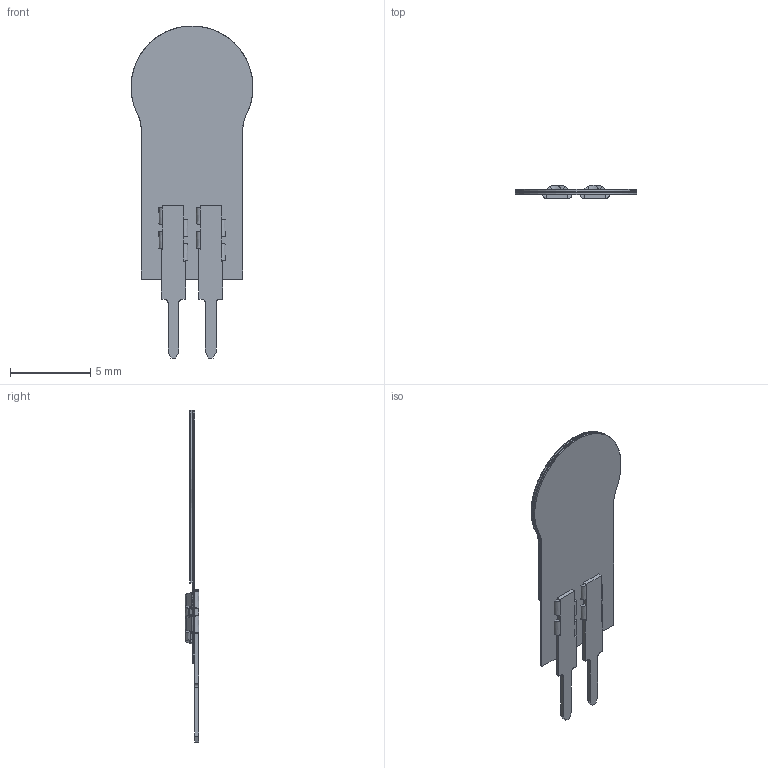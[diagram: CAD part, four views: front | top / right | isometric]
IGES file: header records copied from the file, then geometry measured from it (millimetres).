
Start section: SolidWorks IGES file using analytic representation for surfaces
Global section: file name: C:\Users\jleonard\Desktop\34-47021 FSR 400 Short Tail.IGS; native system: SolidWorks 2008; preprocessor: SolidWorks 2008; author: jleonard; date: 120927.164159; units: millimetre
Bounding box: 7.62 x 0.85 x 20.74 mm (x, y, z)
Surface area: 846.1 mm2 (no closed solid volume)
Topology: 0 solids, 0 shells, 585 faces, 3356 edges, 3356 vertices
Faces by surface type: bspline 473, revolution 112
